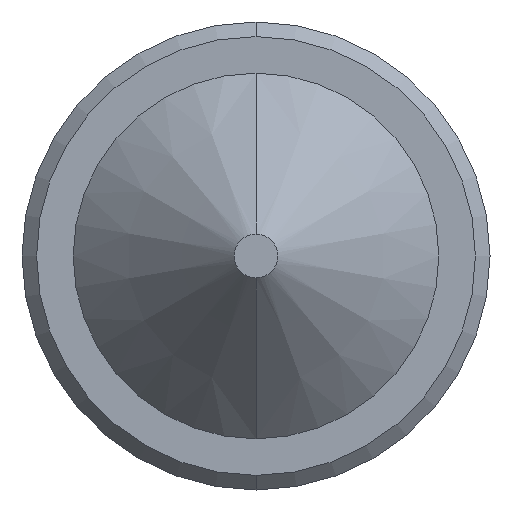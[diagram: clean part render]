
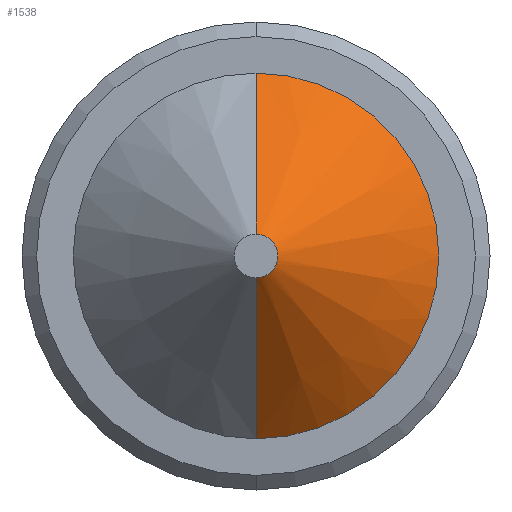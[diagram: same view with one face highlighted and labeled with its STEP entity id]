
A CAD part, front view. The second image highlights one B-rep face of the part: STEP entity #1538.
In plain terms, the highlighted conical face has half-angle 45 degrees and reference radius 0.15 mm.
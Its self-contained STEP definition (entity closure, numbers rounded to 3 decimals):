
#61 = AXIS2_PLACEMENT_3D ( 'NONE', #1333, #1343, #1382 ) ;
#77 = CONICAL_SURFACE ( 'NONE', #61, 0.15, 0.785 ) ;
#91 = AXIS2_PLACEMENT_3D ( 'NONE', #790, #784, #809 ) ;
#100 = CIRCLE ( 'NONE', #91, 0.15 ) ;
#178 = EDGE_CURVE ( 'NONE', #1044, #956, #372, .T. ) ;
#179 = EDGE_CURVE ( 'NONE', #1054, #1044, #1309, .T. ) ;
#180 = EDGE_CURVE ( 'NONE', #1030, #956, #1314, .T. ) ;
#372 = CIRCLE ( 'NONE', #384, 1.25 ) ;
#373 = VECTOR ( 'NONE', #1323, 1000. ) ;
#376 = VECTOR ( 'NONE', #1284, 1000. ) ;
#384 = AXIS2_PLACEMENT_3D ( 'NONE', #1304, #1311, #1300 ) ;
#740 = CARTESIAN_POINT ( 'NONE',  ( 0., -7.65, 1.25 ) ) ;
#749 = CARTESIAN_POINT ( 'NONE',  ( 0., -8.75, -0.15 ) ) ;
#772 = CARTESIAN_POINT ( 'NONE',  ( 0., -8.75, 0.15 ) ) ;
#779 = CARTESIAN_POINT ( 'NONE',  ( 0., -7.65, -1.25 ) ) ;
#784 = DIRECTION ( 'NONE',  ( 0., 1., 0. ) ) ;
#790 = CARTESIAN_POINT ( 'NONE',  ( 0., -8.75, 0. ) ) ;
#809 = DIRECTION ( 'NONE',  ( 0., 0., 1. ) ) ;
#899 = ORIENTED_EDGE ( 'NONE', *, *, #178, .F. ) ;
#918 = ORIENTED_EDGE ( 'NONE', *, *, #1506, .T. ) ;
#929 = ORIENTED_EDGE ( 'NONE', *, *, #179, .F. ) ;
#931 = ORIENTED_EDGE ( 'NONE', *, *, #180, .T. ) ;
#956 = VERTEX_POINT ( 'NONE', #779 ) ;
#1030 = VERTEX_POINT ( 'NONE', #749 ) ;
#1044 = VERTEX_POINT ( 'NONE', #740 ) ;
#1054 = VERTEX_POINT ( 'NONE', #772 ) ;
#1239 = EDGE_LOOP ( 'NONE', ( #918, #931, #899, #929 ) ) ;
#1284 = DIRECTION ( 'NONE',  ( 0., 0.707, -0.707 ) ) ;
#1291 = CARTESIAN_POINT ( 'NONE',  ( 0., -8.75, 0.15 ) ) ;
#1300 = DIRECTION ( 'NONE',  ( 0., 0., 1. ) ) ;
#1304 = CARTESIAN_POINT ( 'NONE',  ( 0., -7.65, 0. ) ) ;
#1305 = CARTESIAN_POINT ( 'NONE',  ( 0., -8.75, -0.15 ) ) ;
#1309 = LINE ( 'NONE', #1291, #373 ) ;
#1311 = DIRECTION ( 'NONE',  ( 0., 1., 0. ) ) ;
#1314 = LINE ( 'NONE', #1305, #376 ) ;
#1323 = DIRECTION ( 'NONE',  ( 0., 0.707, 0.707 ) ) ;
#1333 = CARTESIAN_POINT ( 'NONE',  ( 0., -8.75, 0. ) ) ;
#1341 = FACE_OUTER_BOUND ( 'NONE', #1239, .T. ) ;
#1343 = DIRECTION ( 'NONE',  ( 0., 1., 0. ) ) ;
#1382 = DIRECTION ( 'NONE',  ( 0., 0., 1. ) ) ;
#1506 = EDGE_CURVE ( 'NONE', #1054, #1030, #100, .T. ) ;
#1538 = ADVANCED_FACE ( 'NONE', ( #1341 ), #77, .T. ) ;
